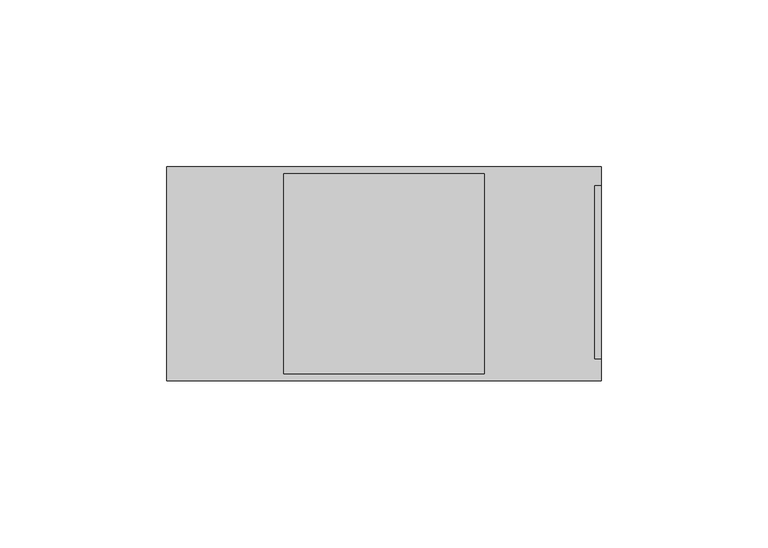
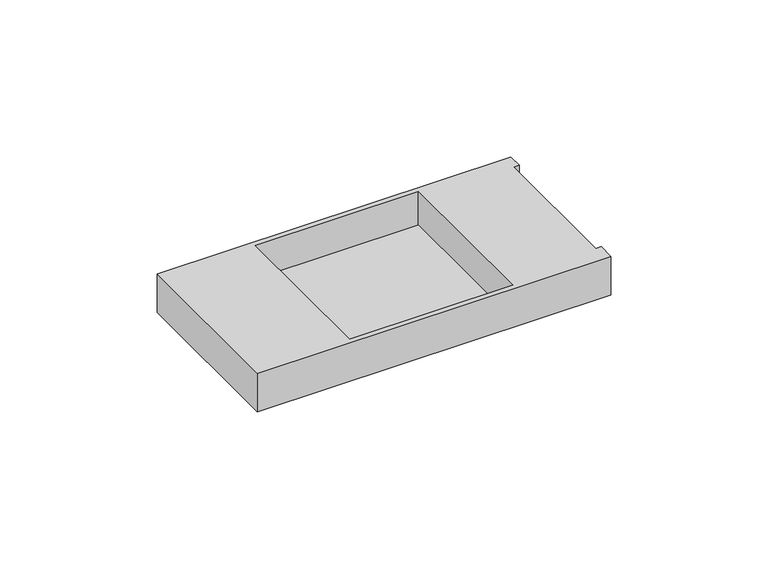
"""IFC4 building model written with IfcOpenShell, lengths in millimetres: duct fitting geometry, Изолирующая коробка - 2 модуля - суппорт Mosaic - для кабель-каналов DLP с шириной крышки : Изолирующая коробка - 2 модуля - суппорт Mosaic - для кабель-каналов DLP с шириной крышки."""

from ifc_helpers import new_model, si_unit, origin, origin_with_axes, place, context, project, spatial, polyline, outline, extrude, faceted_brep, source, transform, mapped, element, save


def duct_fitting_6185d9ba(model_context):
    return source(origin(), model_context, "Body", "SolidModel", [
        extrude(outline(polyline([(30.0, 30.0), (30.0, -30.0), (-30.0, -30.0), (-30.0, 30.0), (30.0, 30.0)])), origin_with_axes(), (0.0, 0.0, 1.0), 2.0),
        faceted_brep([(65.0, 32.0, 15.0), (-65.0, 32.0, 15.0), (-65.0, -32.0, 15.0), (65.0, -32.0, 15.0), (65.0, -25.6326846, 15.0), (63.0, -25.6326846, 15.0), (63.0, 26.5913444, 15.0), (65.0, 26.5913444, 15.0), (30.0, 30.0, 15.0), (30.0, -30.0, 15.0), (-30.0, -30.0, 15.0), (-30.0, 30.0, 15.0), (65.0, 32.0, 0.0), (65.0, -32.0, 0.0), (-65.0, -32.0, 0.0), (-65.0, 32.0, 0.0), (30.0, 30.0, 0.0), (-30.0, 30.0, 0.0), (-30.0, -30.0, 0.0), (30.0, -30.0, 0.0), (65.0, 26.5913444, 3.9555715), (65.0, -25.6326846, 3.9555715), (63.0, -25.6326846, 3.9555715), (63.0, 26.5913444, 3.9555715)], [[[0, 1, 2, 3, 4, 5, 6, 7], [8, 9, 10, 11]], [[12, 13, 14, 15], [16, 17, 18, 19]], [[1, 0, 12, 15]], [[2, 1, 15, 14]], [[3, 2, 14, 13]], [[13, 12, 0, 7, 20, 21, 4, 3]], [[9, 8, 16, 19]], [[10, 9, 19, 18]], [[11, 10, 18, 17]], [[8, 11, 17, 16]], [[5, 22, 23, 6]], [[6, 23, 20, 7]], [[23, 22, 21, 20]], [[22, 5, 4, 21]]]),
    ])


if __name__ == "__main__":
    model = new_model("IFC4")
    model_context = context("Model", 3, world=origin())
    ifc_project = project(units=[si_unit("LENGTHUNIT", "METRE", prefix="MILLI")], contexts=[model_context])
    site = spatial("IfcSite", under=ifc_project)
    building = spatial("IfcBuilding", under=site)
    placement = place(None, origin())
    duct_fitting_shape = duct_fitting_6185d9ba(model_context)
    element("IfcDuctFitting", 1, ObjectType="Изолирующая коробка - 2 модуля - суппорт Mosaic - для кабель-каналов DLP с шириной крышки : Изолирующая коробка - 2 модуля - суппорт Mosaic - для кабель-каналов DLP с шириной крышки", at=placement, inside=building, context=model_context, shape_type="MappedRepresentation", body=[
        mapped(duct_fitting_shape, transform((0.0, 0.0, 0.0), x_axis=(1.0, 0.0, 0.0), y_axis=(0.0, 1.0, 0.0), z_axis=(0.0, 0.0, 1.0))),
    ])
    save(model, "model.ifc")
